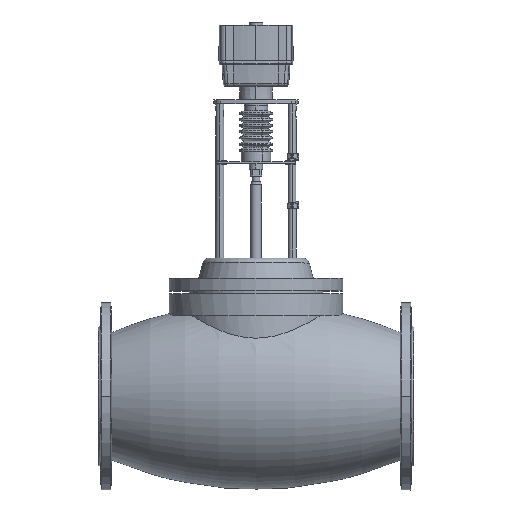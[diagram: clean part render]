
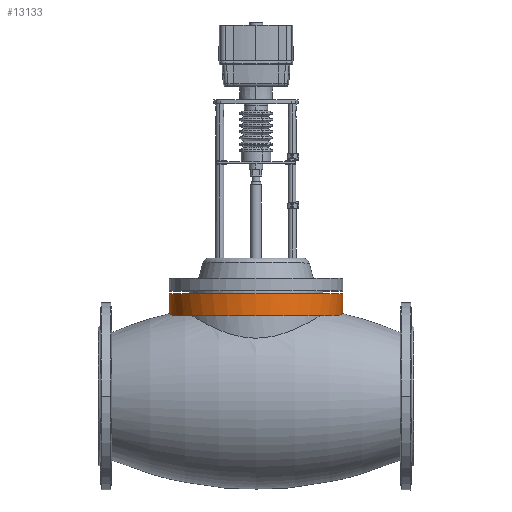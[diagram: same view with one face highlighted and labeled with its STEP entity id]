
A CAD part, top view. The second image highlights one B-rep face of the part: STEP entity #13133.
In plain terms, the highlighted cylindrical face has radius 132 mm (diameter 264 mm), a partial arc.
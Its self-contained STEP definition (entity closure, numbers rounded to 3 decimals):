
#482 = CARTESIAN_POINT ( 'NONE',  ( -265.485, 217.5, -98. ) ) ;
#533 = CARTESIAN_POINT ( 'NONE',  ( -397.478, 187.535, -96.601 ) ) ;
#725 = CARTESIAN_POINT ( 'NONE',  ( -396.329, 186.61, -80.566 ) ) ;
#816 = CARTESIAN_POINT ( 'NONE',  ( -393.272, 184.157, -64.918 ) ) ;
#906 = CARTESIAN_POINT ( 'NONE',  ( -396.396, 186.664, -81.079 ) ) ;
#1256 = ORIENTED_EDGE ( 'NONE', *, *, #7686, .F. ) ;
#1307 = CIRCLE ( 'NONE', #11659, 132. ) ;
#1533 = CARTESIAN_POINT ( 'NONE',  ( -133.485, 187.541, -95.196 ) ) ;
#1623 = CARTESIAN_POINT ( 'NONE',  ( -134.403, 186.801, -82.451 ) ) ;
#1928 = CARTESIAN_POINT ( 'NONE',  ( -397.485, 217.5, -98. ) ) ;
#1944 = B_SPLINE_CURVE_WITH_KNOTS ( 'NONE', 3,
 ( #816, #14887, #16087, #2118, #14705, #6455, #7933, #14794, #725, #13306, #906, #6370, #6181, #4988, #5077, #12022, #10730, #533, #10547, #11927, #7748 ),
 .UNSPECIFIED., .F., .F.,
 ( 4, 2, 2, 1, 1, 2, 2, 2, 2, 1, 2, 4 ),
 ( 0., 0.125, 0.188, 0.219, 0.235, 0.242, 0.25, 0.375, 0.438, 0.469, 0.485, 0.501 ),
 .UNSPECIFIED. ) ;
#2072 = ORIENTED_EDGE ( 'NONE', *, *, #17506, .F. ) ;
#2118 = CARTESIAN_POINT ( 'NONE',  ( -395.367, 185.836, -74.406 ) ) ;
#2188 = ORIENTED_EDGE ( 'NONE', *, *, #15586, .F. ) ;
#2192 = EDGE_LOOP ( 'NONE', ( #2072, #3914, #18282, #1256, #2188, #16140 ) ) ;
#2312 = DIRECTION ( 'NONE',  ( 0., -1., 0. ) ) ;
#2475 = CARTESIAN_POINT ( 'NONE',  ( -397.485, 260.625, -98. ) ) ;
#2859 = CARTESIAN_POINT ( 'NONE',  ( -397.485, 187.541, -98. ) ) ;
#2921 = CARTESIAN_POINT ( 'NONE',  ( -133.485, 187.541, -98. ) ) ;
#3469 = LINE ( 'NONE', #9102, #13166 ) ;
#3494 = VERTEX_POINT ( 'NONE', #3995 ) ;
#3787 = EDGE_CURVE ( 'NONE', #12518, #13288, #1307, .T. ) ;
#3914 = ORIENTED_EDGE ( 'NONE', *, *, #13657, .T. ) ;
#3995 = CARTESIAN_POINT ( 'NONE',  ( -393.272, 184.157, -64.918 ) ) ;
#4317 = CARTESIAN_POINT ( 'NONE',  ( -134.262, 186.915, -83.669 ) ) ;
#4607 = VERTEX_POINT ( 'NONE', #14806 ) ;
#4988 = CARTESIAN_POINT ( 'NONE',  ( -397.308, 187.397, -91.011 ) ) ;
#5016 = VECTOR ( 'NONE', #11003, 1000. ) ;
#5077 = CARTESIAN_POINT ( 'NONE',  ( -397.374, 187.451, -92.408 ) ) ;
#5607 = CARTESIAN_POINT ( 'NONE',  ( -134.532, 186.697, -81.405 ) ) ;
#5631 = FACE_OUTER_BOUND ( 'NONE', #2192, .T. ) ;
#5701 = CARTESIAN_POINT ( 'NONE',  ( -133.574, 187.469, -92.395 ) ) ;
#5795 = CARTESIAN_POINT ( 'NONE',  ( -135.258, 186.114, -75.742 ) ) ;
#6181 = CARTESIAN_POINT ( 'NONE',  ( -397.041, 187.183, -86.823 ) ) ;
#6182 = AXIS2_PLACEMENT_3D ( 'NONE', #9342, #2312, #7943 ) ;
#6370 = CARTESIAN_POINT ( 'NONE',  ( -396.774, 186.968, -84.035 ) ) ;
#6455 = CARTESIAN_POINT ( 'NONE',  ( -395.936, 186.294, -77.823 ) ) ;
#6758 = EDGE_CURVE ( 'NONE', #17161, #3494, #14755, .T. ) ;
#6917 = CARTESIAN_POINT ( 'NONE',  ( -137.698, 184.157, -64.918 ) ) ;
#6988 = CARTESIAN_POINT ( 'NONE',  ( -137.698, 184.157, -64.918 ) ) ;
#7166 = CARTESIAN_POINT ( 'NONE',  ( -133.953, 187.164, -86.806 ) ) ;
#7241 = DIRECTION ( 'NONE',  ( 0., -1., 0. ) ) ;
#7601 = CARTESIAN_POINT ( 'NONE',  ( -133.485, 217.5, -98. ) ) ;
#7686 = EDGE_CURVE ( 'NONE', #17160, #13288, #12199, .T. ) ;
#7748 = CARTESIAN_POINT ( 'NONE',  ( -397.485, 187.541, -98. ) ) ;
#7933 = CARTESIAN_POINT ( 'NONE',  ( -396.092, 186.419, -78.85 ) ) ;
#7943 = DIRECTION ( 'NONE',  ( -1., 0., 0. ) ) ;
#8545 = CARTESIAN_POINT ( 'NONE',  ( -134.467, 186.75, -81.929 ) ) ;
#9102 = CARTESIAN_POINT ( 'NONE',  ( -133.485, 260.625, -98. ) ) ;
#9306 = AXIS2_PLACEMENT_3D ( 'NONE', #12936, #17101, #17015 ) ;
#9342 = CARTESIAN_POINT ( 'NONE',  ( -265.485, 184.157, -98. ) ) ;
#10547 = CARTESIAN_POINT ( 'NONE',  ( -397.484, 187.54, -97.3 ) ) ;
#10730 = CARTESIAN_POINT ( 'NONE',  ( -397.466, 187.525, -95.552 ) ) ;
#11003 = DIRECTION ( 'NONE',  ( 0., 1., 0. ) ) ;
#11349 = CARTESIAN_POINT ( 'NONE',  ( -134.51, 186.715, -81.581 ) ) ;
#11378 = CYLINDRICAL_SURFACE ( 'NONE', #9306, 132. ) ;
#11659 = AXIS2_PLACEMENT_3D ( 'NONE', #482, #7241, #11695 ) ;
#11695 = DIRECTION ( 'NONE',  ( -1., 0., 0. ) ) ;
#11927 = CARTESIAN_POINT ( 'NONE',  ( -397.485, 187.541, -97.649 ) ) ;
#12022 = CARTESIAN_POINT ( 'NONE',  ( -397.441, 187.505, -94.504 ) ) ;
#12199 = LINE ( 'NONE', #2475, #5016 ) ;
#12518 = VERTEX_POINT ( 'NONE', #7601 ) ;
#12820 = CARTESIAN_POINT ( 'NONE',  ( -136.305, 185.272, -70.298 ) ) ;
#12936 = CARTESIAN_POINT ( 'NONE',  ( -265.485, 260.625, -98. ) ) ;
#13097 = DIRECTION ( 'NONE',  ( 0., 1., 0. ) ) ;
#13133 = ADVANCED_FACE ( 'NONE', ( #5631 ), #11378, .T. ) ;
#13166 = VECTOR ( 'NONE', #13097, 1000. ) ;
#13288 = VERTEX_POINT ( 'NONE', #1928 ) ;
#13306 = CARTESIAN_POINT ( 'NONE',  ( -396.374, 186.646, -80.909 ) ) ;
#13657 = EDGE_CURVE ( 'NONE', #4607, #12518, #3469, .T. ) ;
#14200 = CARTESIAN_POINT ( 'NONE',  ( -134.153, 187.002, -84.714 ) ) ;
#14705 = CARTESIAN_POINT ( 'NONE',  ( -395.607, 186.03, -75.771 ) ) ;
#14755 = CIRCLE ( 'NONE', #6182, 132. ) ;
#14794 = CARTESIAN_POINT ( 'NONE',  ( -396.26, 186.554, -80.051 ) ) ;
#14806 = CARTESIAN_POINT ( 'NONE',  ( -133.485, 187.541, -98. ) ) ;
#14887 = CARTESIAN_POINT ( 'NONE',  ( -393.97, 184.715, -67.612 ) ) ;
#15360 = B_SPLINE_CURVE_WITH_KNOTS ( 'NONE', 3,
 ( #2921, #1533, #5701, #18184, #7166, #14200, #4317, #1623, #8545, #11349, #5607, #5795, #12820, #6988 ),
 .UNSPECIFIED., .F., .F.,
 ( 4, 2, 2, 1, 1, 2, 2, 4 ),
 ( 0.501, 0.625, 0.688, 0.719, 0.735, 0.743, 0.75, 1. ),
 .UNSPECIFIED. ) ;
#15586 = EDGE_CURVE ( 'NONE', #3494, #17160, #1944, .T. ) ;
#16087 = CARTESIAN_POINT ( 'NONE',  ( -394.581, 185.205, -70.322 ) ) ;
#16140 = ORIENTED_EDGE ( 'NONE', *, *, #6758, .F. ) ;
#17015 = DIRECTION ( 'NONE',  ( -1., 0., 0. ) ) ;
#17101 = DIRECTION ( 'NONE',  ( 0., 1., 0. ) ) ;
#17160 = VERTEX_POINT ( 'NONE', #2859 ) ;
#17161 = VERTEX_POINT ( 'NONE', #6917 ) ;
#17506 = EDGE_CURVE ( 'NONE', #4607, #17161, #15360, .T. ) ;
#18184 = CARTESIAN_POINT ( 'NONE',  ( -133.842, 187.253, -88.202 ) ) ;
#18282 = ORIENTED_EDGE ( 'NONE', *, *, #3787, .T. ) ;
